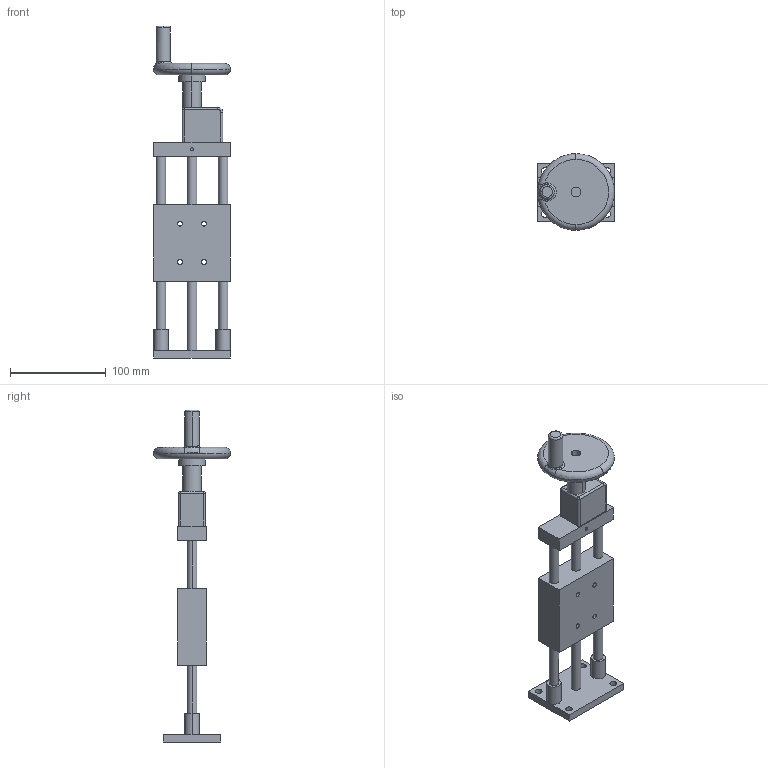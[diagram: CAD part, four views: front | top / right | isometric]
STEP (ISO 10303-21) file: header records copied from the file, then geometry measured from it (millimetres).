
FILE_DESCRIPTION (( 'STEP AP203' ), '1' );
FILE_NAME ('PT-SD504S.STEP', '2022-04-16T03:35:28', ( '' ), ( '' ), 'SwSTEP 2.0', 'SolidWorks 2017', '' );
FILE_SCHEMA (( 'CONFIG_CONTROL_DESIGN' ));
Length unit declared in the file: millimetre
Products named in the file (3): PT-SD504S; 忒謫2; 504S
Assembly tree (2 placements, depth 2):
  PT-SD504S
    504S
    忒謫2
Bounding box: 80 x 80 x 346 mm (x, y, z)
Volume: 409601.1 mm3; surface area: 77604.4 mm2
Topology: 2 solids, 2 shells, 101 faces, 248 edges, 155 vertices
Faces by surface type: cylinder 51, plane 30, torus 12, bspline 4, cone 2, sphere 2
Entity records: 3623 total; most frequent: CARTESIAN_POINT 815, DIRECTION 574, ORIENTED_EDGE 488, EDGE_CURVE 244, AXIS2_PLACEMENT_3D 236, VERTEX_POINT 155, EDGE_LOOP 135, CIRCLE 134
